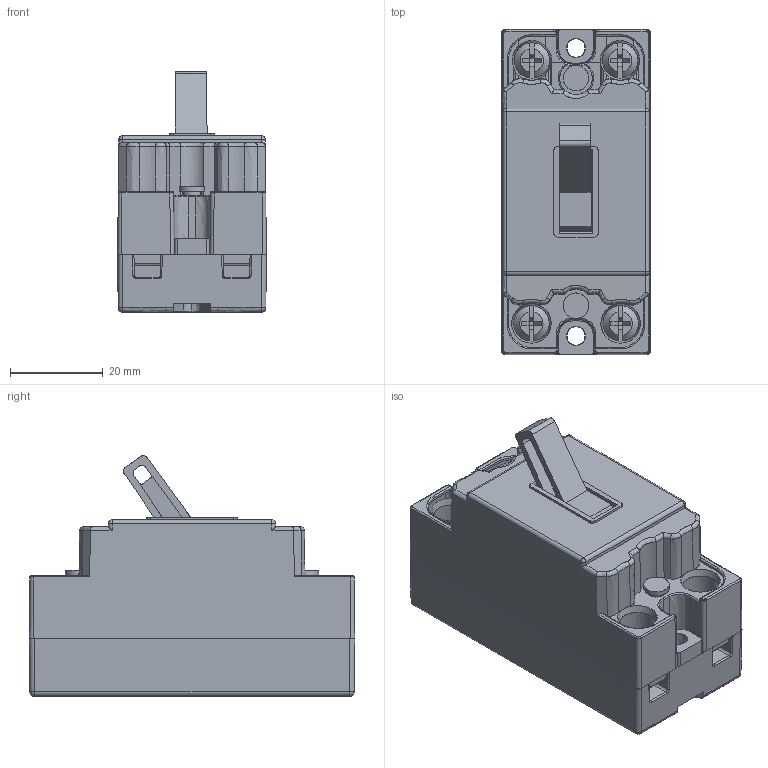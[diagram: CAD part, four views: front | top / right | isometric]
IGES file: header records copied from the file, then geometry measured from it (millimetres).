
Global section: file name: C:\config\13_kd-ds2310a_141029.igs; native system: NX V8.0; preprocessor: SIEMENS PLM Software NX 8.0; date: 20141029.105100; units: millimetre
Bounding box: 32 x 70 x 51.83 mm (x, y, z)
Surface area: 15819.6 mm2 (no closed solid volume)
Topology: 0 solids, 0 shells, 684 faces, 4580 edges, 4515 vertices
Faces by surface type: bspline 684
